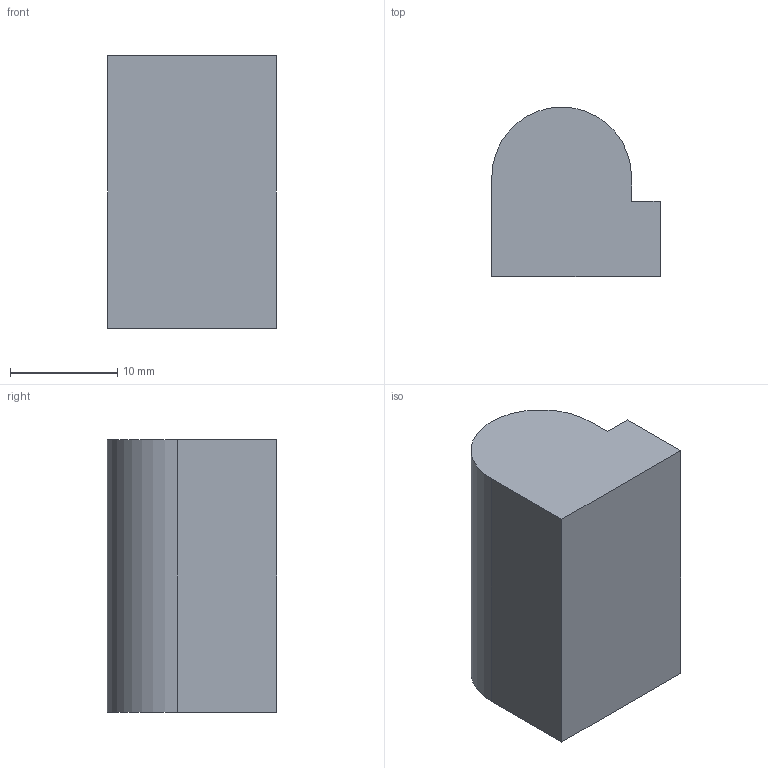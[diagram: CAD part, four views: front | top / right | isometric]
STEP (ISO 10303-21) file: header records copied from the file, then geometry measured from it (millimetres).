
FILE_DESCRIPTION (( 'STEP AP203' ), '1' );
FILE_NAME ('AB110BeadFJ.STEP', '2023-08-25T14:13:55', ( '' ), ( '' ), 'SwSTEP 2.0', 'SolidWorks 2020', '' );
FILE_SCHEMA (( 'CONFIG_CONTROL_DESIGN' ));
Length unit declared in the file: inch
Products named in the file (1): AB110BeadFJ
Bounding box: 15.67 x 15.77 x 25.4 mm (x, y, z)
Volume: 5224.3 mm3; surface area: 1867 mm2
Topology: 1 solids, 1 shells, 8 faces, 18 edges, 12 vertices
Faces by surface type: plane 7, cylinder 1
Entity records: 303 total; most frequent: CARTESIAN_POINT 39, DIRECTION 38, ORIENTED_EDGE 36, EDGE_CURVE 18, LINE 16, VECTOR 16, VERTEX_POINT 12, AXIS2_PLACEMENT_3D 11
